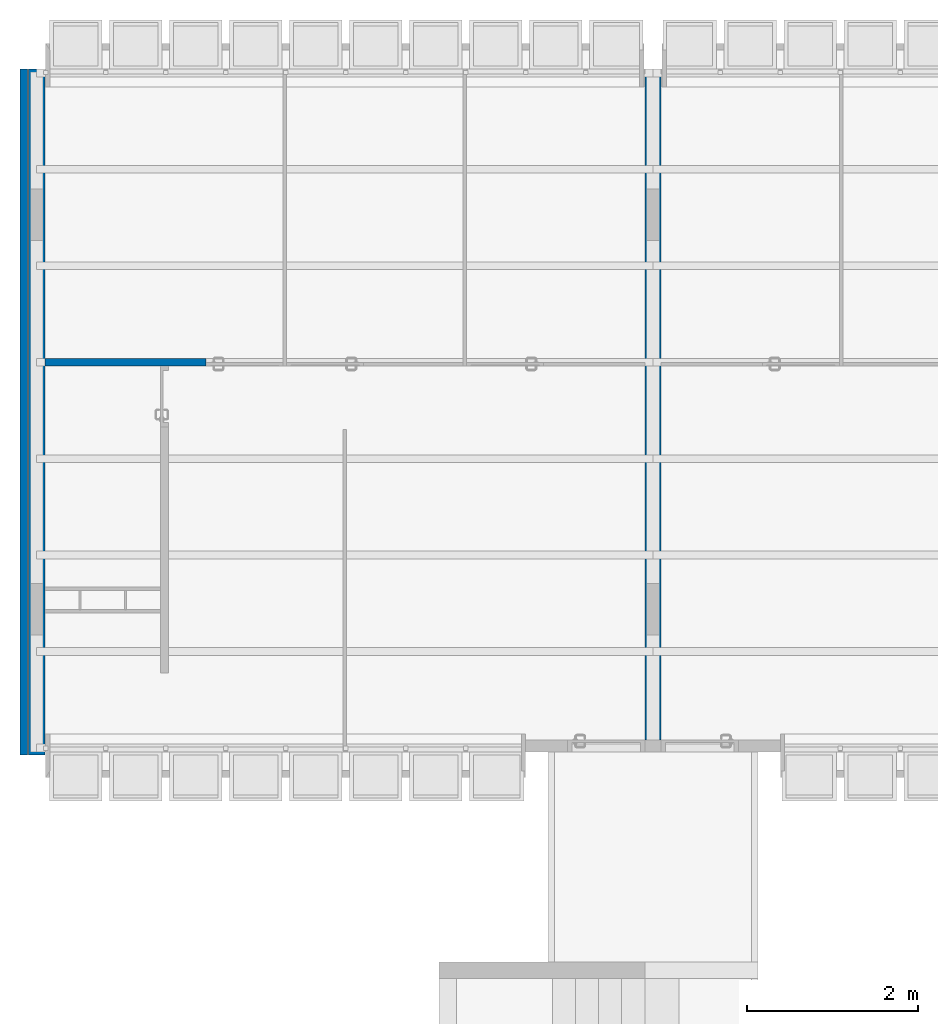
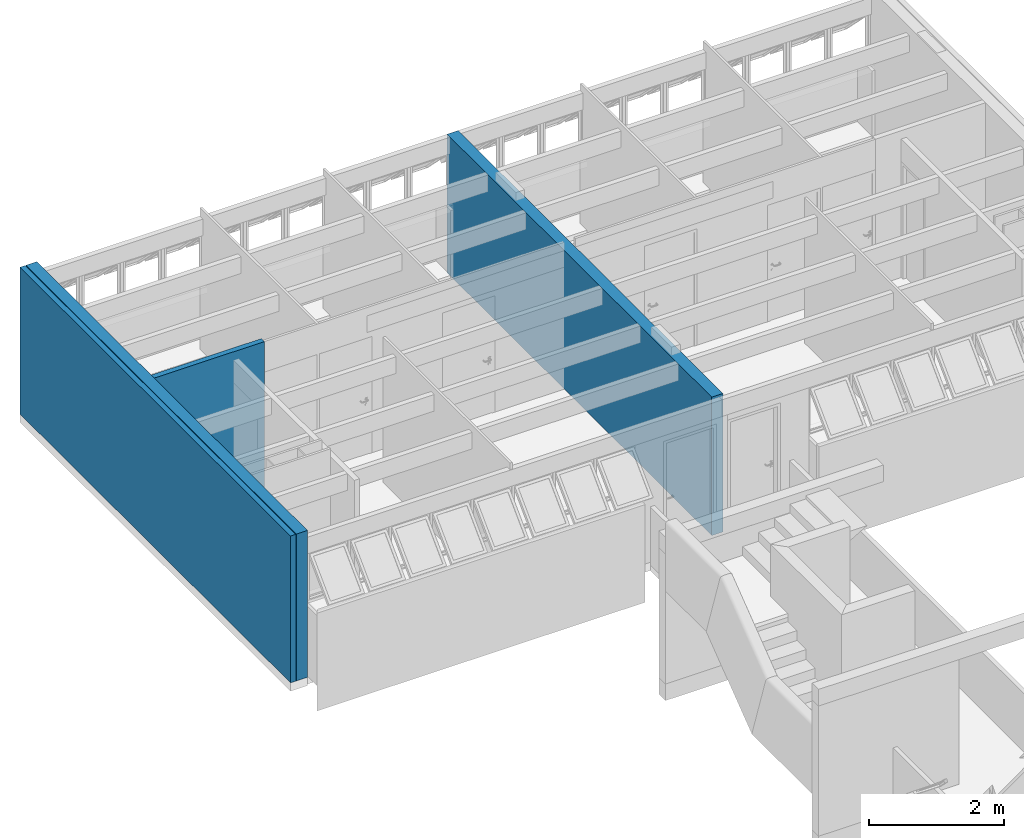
# One storey, part 19 of 37: 4 walls.
"""IFC2X3 building model written with IfcOpenShell, lengths in millimetres."""

from ifc_helpers import new_model, entity, si_unit, converted_unit, derived_unit, money_unit, direction, frame, origin_with_axes, place, context, subcontext, project, spatial, polyline, outline, extrude, material, layer, layer_set, layer_usage, type_object, element, save


model = new_model("IFC2X3")

# Units and contexts
model_context = context("Model", 3, precision=0.01, world=origin_with_axes(), true_north=direction((0.0, 1.0)))
body_context = subcontext(model_context, "Body", "Model", "MODEL_VIEW")
ifc_project = project(units=[si_unit("LENGTHUNIT", "METRE", prefix="MILLI"), si_unit("AREAUNIT", "SQUARE_METRE"), si_unit("VOLUMEUNIT", "CUBIC_METRE"), converted_unit("PLANEANGLEUNIT", "DEGREE", entity("IfcPlaneAngleMeasure", 0.0174532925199), si_unit("PLANEANGLEUNIT", "RADIAN"), dimensions=[0, 0, 0, 0, 0, 0, 0]), money_unit("USD"), converted_unit("TIMEUNIT", "Year", entity("IfcTimeMeasure", 31556926.0), si_unit("TIMEUNIT", "SECOND"), dimensions=[0, 0, 1, 0, 0, 0, 0]), si_unit("MASSUNIT", "GRAM", prefix="KILO"), si_unit("THERMODYNAMICTEMPERATUREUNIT", "DEGREE_CELSIUS"), si_unit("LUMINOUSINTENSITYUNIT", "LUMEN"), si_unit("ENERGYUNIT", "JOULE", prefix="MEGA"), derived_unit("THERMALCONDUCTANCEUNIT", [(si_unit("POWERUNIT", "WATT"), 1), (si_unit("LENGTHUNIT", "METRE"), -1), (si_unit("THERMODYNAMICTEMPERATUREUNIT", "KELVIN"), -1)]), derived_unit("SPECIFICHEATCAPACITYUNIT", [(si_unit("ENERGYUNIT", "JOULE"), 1), (si_unit("MASSUNIT", "GRAM", prefix="KILO"), -1), (si_unit("THERMODYNAMICTEMPERATUREUNIT", "KELVIN"), -1)]), derived_unit("MASSDENSITYUNIT", [(si_unit("MASSUNIT", "GRAM", prefix="KILO"), 1), (si_unit("VOLUMEUNIT", "CUBIC_METRE"), -1)])], contexts=[model_context])

# Site, building, storey
site_placement = place(None, origin_with_axes())
site = spatial("IfcSite", under=ifc_project, at=site_placement, Name="Local", CompositionType="ELEMENT")
building_placement = place(site_placement, origin_with_axes())
building = spatial("IfcBuilding", under=site, at=building_placement, Name="Construção", CompositionType="ELEMENT")
storey_placement = place(building_placement, origin_with_axes())
storey = spatial("IfcBuildingStorey", under=building, at=storey_placement, Name="Primeiro Pavimento", CompositionType="ELEMENT", Elevation=0.0)

# Walls
ifc_material = material(Name="GENÉRICO - VEDAÇÃO EXTERNA")
ifc_layer_1 = layer(ifc_material, 190.0, ventilated="UNKNOWN")
ifc_layer_set_1 = layer_set([ifc_layer_1], Name="GENÉRICO - VEDAÇÃO EXTERNA 190")
ifc_layer_usage_1 = layer_usage(ifc_layer_set_1, "AXIS2", "POSITIVE", 0.0)
wall_type_1 = type_object("IfcWallType", Name="GENÉRICO - VEDAÇÃO EXTERNA 190", PredefinedType="NOTDEFINED")
wall_1_placement = place(storey_placement, frame((290.0, 17860.0, 0.0), z_axis=(0.0, 0.0, 1.0), x_axis=(0.0, 1.0, 0.0)))
element("IfcWallStandardCase", 1, at=wall_1_placement, inside=storey, type_object=wall_type_1, material=ifc_layer_usage_1, Name="APTO3-PAREDE-013", context=body_context, shape_type="SweptSolid", body=[
    extrude(outline(polyline([(0.0, 0.0), (8000.0, 0.0), (8000.0, 190.0), (0.0, 190.0), (0.0, 0.0)])), origin_with_axes(), (0.0, 0.0, 1.0), 2650.0),
])
ifc_layer_usage_2 = layer_usage(ifc_layer_set_1, "AXIS2", "POSITIVE", 0.0)
wall_2_placement = place(storey_placement, frame((7480.0, 18035.0, 0.0), z_axis=(0.0, 0.0, 1.0), x_axis=(0.0, 1.0, 0.0)))
element("IfcWallStandardCase", 2, at=wall_2_placement, inside=storey, type_object=wall_type_1, material=ifc_layer_usage_2, Name="CIRC1-PAREDE-029", context=body_context, shape_type="SweptSolid", body=[
    extrude(outline(polyline([(0.0, 0.0), (7825.0, 0.0), (7825.0, 190.0), (0.0, 190.0), (0.0, 0.0)])), origin_with_axes(), (0.0, 0.0, 1.0), 2500.0),
])
ifc_layer_2 = layer(ifc_material, 90.0, ventilated="UNKNOWN")
ifc_layer_set_2 = layer_set([ifc_layer_2], Name="GENÉRICO - VEDAÇÃO EXTERNA 90")
ifc_layer_usage_3 = layer_usage(ifc_layer_set_2, "AXIS2", "POSITIVE", 0.0)
wall_type_2 = type_object("IfcWallType", Name="GENÉRICO - VEDAÇÃO EXTERNA 90", PredefinedType="NOTDEFINED")
wall_3_placement = place(storey_placement, frame((290.0, 22394.7804333, 0.0), z_axis=(0.0, 0.0, 1.0), x_axis=(1.0, 0.0, 0.0)))
element("IfcWallStandardCase", 3, at=wall_3_placement, inside=storey, type_object=wall_type_2, material=ifc_layer_usage_3, Name="APTO3-PAREDE-019", context=body_context, shape_type="SweptSolid", body=[
    extrude(outline(polyline([(0.0, 0.0), (1880.0, 0.0), (1879.99807021, 90.0), (0.0, 90.0), (0.0, 0.0)])), origin_with_axes(), (0.0, 0.0, 1.0), 2650.0),
])
ifc_layer_usage_4 = layer_usage(ifc_layer_set_2, "AXIS2", "POSITIVE", 0.0)
wall_4_placement = place(storey_placement, frame((90.0, 17860.0, 0.0), z_axis=(0.0, 0.0, 1.0), x_axis=(0.0, 1.0, 0.0)))
element("IfcWallStandardCase", 4, at=wall_4_placement, inside=storey, type_object=wall_type_2, material=ifc_layer_usage_4, Name="APTO3-PAREDE-014", context=body_context, shape_type="SweptSolid", body=[
    extrude(outline(polyline([(0.0, 0.0), (8000.0, 0.0), (8000.0, 90.0), (0.0, 90.0), (0.0, 0.0)])), origin_with_axes(), (0.0, 0.0, 1.0), 2650.0),
])

save(model, "model.ifc")
